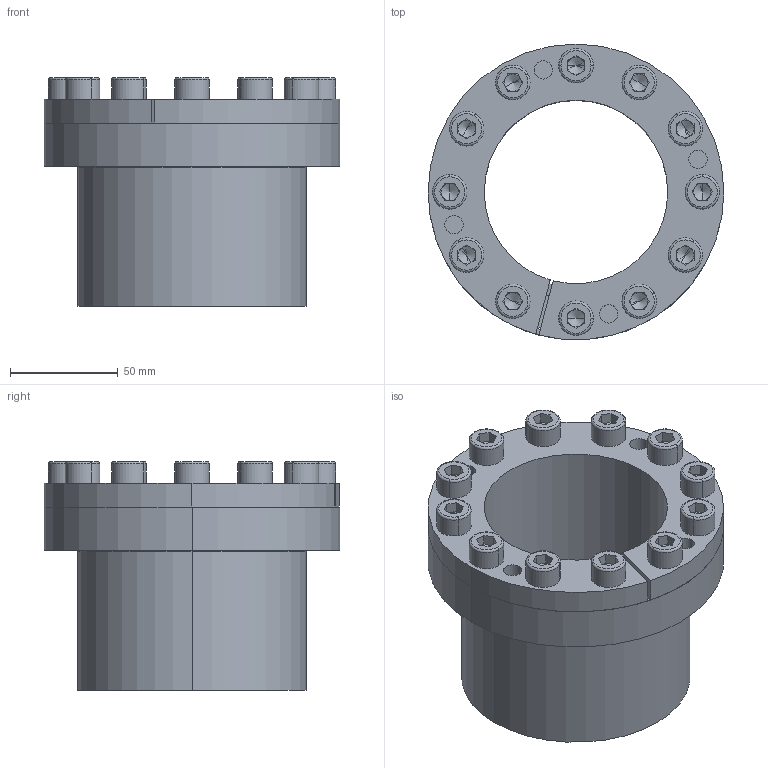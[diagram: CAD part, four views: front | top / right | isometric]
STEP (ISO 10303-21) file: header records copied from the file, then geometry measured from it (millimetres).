
FILE_DESCRIPTION (( 'STEP AP214' ), '1' );
FILE_NAME ('CONEX-B-85x106.step', '2013-04-04T12:42:30', ( 'Pc' ), ( '' ), 'SwSTEP 2.0', 'SolidWorks 2013', '' );
FILE_SCHEMA (( 'AUTOMOTIVE_DESIGN' ));
Length unit declared in the file: millimetre
Products named in the file (1): CONEX-B-85x106
Bounding box: 137 x 137 x 105.93 mm (x, y, z)
Volume: 456250.6 mm3; surface area: 179554.1 mm2
Topology: 15 solids, 15 shells, 420 faces, 962 edges, 572 vertices
Faces by surface type: plane 192, cylinder 120, torus 54, cone 54
Entity records: 16564 total; most frequent: DIRECTION 2226, CARTESIAN_POINT 1979, ORIENTED_EDGE 1876, EDGE_CURVE 938, AXIS2_PLACEMENT_3D 875, VERTEX_POINT 572, EDGE_LOOP 502, LINE 476
